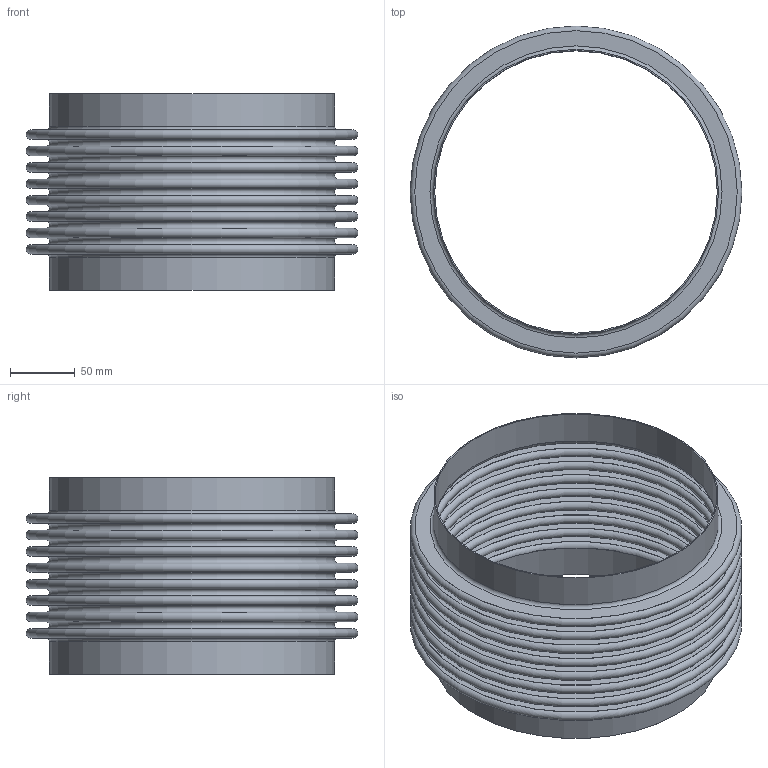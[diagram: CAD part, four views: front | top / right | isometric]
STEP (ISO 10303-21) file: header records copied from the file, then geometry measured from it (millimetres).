
FILE_DESCRIPTION(/* description */ ('STOCK BELLOWS: U.S-8-8-150S, 8.625 I.D., 10.125 O.D., 1 PLY, 20 GA (0.036 THICK), 8 CONS., 0.500 PITCH, 1.000 TANGENT. '),/* implementation_level */ '2;1');
FILE_NAME(/* name */ 'STOCK BELLOW - US-8-8-150S.stp',/* time_stamp */ '2026-07-21T13:02:38-05:00',/* author */ ('KennethB'),/* organization */ (''),/* preprocessor_version */ 'ST-DEVELOPER v20.1',/* originating_system */ 'Autodesk Inventor 2026',/* authorisation */ '');
FILE_SCHEMA (('AUTOMOTIVE_DESIGN { 1 0 10303 214 3 1 1 }'));
Length unit declared in the file: inch
Products named in the file (1): STOCK BELLOW - US-8-8-150S
Bounding box: 257.18 x 257.18 x 152.4 mm (x, y, z)
Volume: 270265.8 mm3; surface area: 594924.2 mm2
Topology: 3 solids, 3 shells, 76 faces, 114 edges, 77 vertices
Faces by surface type: plane 38, torus 34, cylinder 4
Full cylindrical faces by diameter (mm): 219.075 x2, 220.904 x2
Entity records: 1814 total; most frequent: DIRECTION 378, CARTESIAN_POINT 268, ORIENTED_EDGE 228, AXIS2_PLACEMENT_3D 187, EDGE_LOOP 114, EDGE_CURVE 114, CIRCLE 110, FACE_OUTER_BOUND 76
